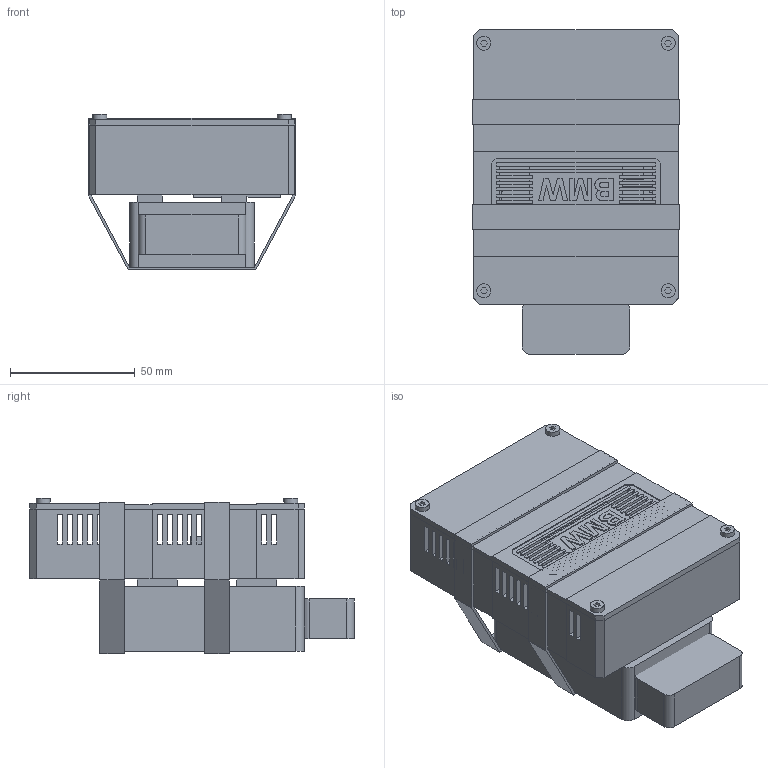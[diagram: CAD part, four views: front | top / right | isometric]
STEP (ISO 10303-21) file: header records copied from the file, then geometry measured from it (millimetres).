
FILE_DESCRIPTION(('Open CASCADE Model'),'2;1');
FILE_NAME( 'ELM backpack D - BLACK ENGINE BAY ADAPTER - FIT CHECK REQUIRED', '2026-09-07T22:52:43',('Author'),('Open CASCADE'), 'Open CASCADE STEP processor 7.9','build123d','Unknown');
FILE_SCHEMA(('AUTOMOTIVE_DESIGN { 1 0 10303 214 1 1 1 1 }'));
Length unit declared in the file: millimetre
Products named in the file (119): ELM backpack D - BLACK ENGINE BAY ADAPTER - FIT CHECK REQUIRED; base; lid; buck keeper 4; REF optional silver rib paint; REF optional silver lettering paint; REF buck PCB; REF buck input DC jack; REF buck input terminal; REF terminal screw; REF buck output terminal; REF buck input capacitor; REF buck output capacitor; REF buck inductor; REF buck controller; REF buck USB C; REF ESP PCB; REF ESP antenna - no tie here; REF ESP RF shield - tie here; REF ESP USB C; REF ESP solder pad; REF direct solder joint; REF ESP button; REF ESP RGB LED; REF insulating support pad; REF keeper toe pad - compressed; REF mounting silicone pad; REF ELM shell - UNMEASURED; REF OBD plug - UNMEASURED; REF M3 x 10 screw; REF M3 x 6 screw; REF reusable 10 mm strap; REF ESP retaining nylon tie
Assembly tree (121 placements, depth 2):
  ELM backpack D - BLACK ENGINE BAY ADAPTER - FIT CHECK REQUIRED
    base
    lid
    buck keeper 4  x4
    REF optional silver rib paint
    REF optional silver rib paint
    REF optional silver rib paint
    REF optional silver rib paint
    REF optional silver rib paint
    REF optional silver rib paint
    REF optional silver rib paint
    REF optional silver rib paint
    REF optional silver rib paint
    REF optional silver rib paint
    REF optional silver rib paint
    REF optional silver rib paint
    REF optional silver rib paint
    REF optional silver rib paint
    REF optional silver lettering paint
    REF buck PCB
    REF buck input DC jack
    REF buck input terminal
    REF terminal screw
    REF terminal screw
    REF buck output terminal
    REF terminal screw
    REF terminal screw
    REF buck input capacitor
    REF buck output capacitor
    REF buck inductor
    REF buck controller
    REF buck USB C
    REF ESP PCB
    REF ESP antenna - no tie here
    REF ESP RF shield - tie here
    REF ESP USB C
    REF ESP USB C
    REF ESP solder pad
    REF ESP solder pad
    REF ESP solder pad
    REF ESP solder pad
    REF ESP solder pad
    REF ESP solder pad
    REF ESP solder pad
    REF ESP solder pad
    REF ESP solder pad
    REF ESP solder pad
    REF ESP solder pad
    REF ESP solder pad
    REF ESP solder pad
    REF ESP solder pad
    REF ESP solder pad
    REF ESP solder pad
    REF ESP solder pad
    REF ESP solder pad
    REF ESP solder pad
    REF ESP solder pad
    REF ESP solder pad
    REF ESP solder pad
    REF direct solder joint
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Bounding box: 82.8 x 130 x 62.4 mm (x, y, z)
Volume: 203537.3 mm3; surface area: 110550.9 mm2
Topology: 123 solids, 123 shells, 1376 faces, 3283 edges, 2186 vertices
Faces by surface type: plane 1190, cylinder 138, extrusion 48
Full cylindrical faces by diameter (mm): 1.4 x44, 1.5 x8, 2.6 x8, 3 x8, 3.4 x12, 5.6 x8, 6.4 x4, 9 x1, 10 x1
Entity records: 84434 total; most frequent: CARTESIAN_POINT 16465, DIRECTION 11092, VECTOR 7426, LINE 7378, ORIENTED_EDGE 6476, PCURVE 6476, DEFINITIONAL_REPRESENTATION 6476, EDGE_CURVE 3238
